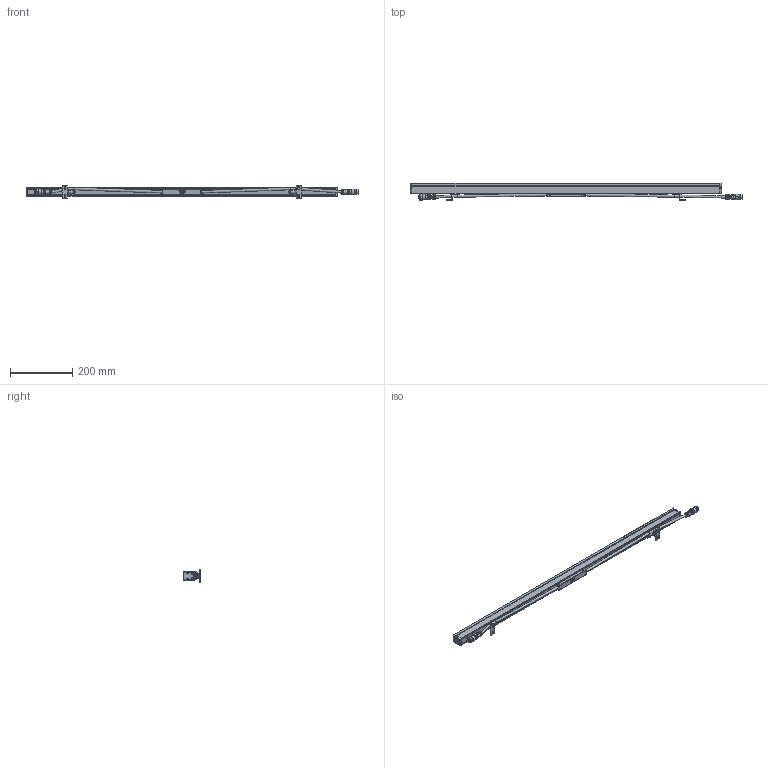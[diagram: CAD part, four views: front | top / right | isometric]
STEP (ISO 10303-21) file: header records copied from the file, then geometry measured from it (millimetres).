
FILE_DESCRIPTION (( 'STEP AP214' ), '1' );
FILE_NAME ('Linear Soft Line - L1000.STEP', '2025-08-26T12:09:16', ( '' ), ( '' ), 'SwSTEP 2.0', 'SolidWorks 2025', '' );
FILE_SCHEMA (( 'AUTOMOTIVE_DESIGN' ));
Length unit declared in the file: millimetre
Products named in the file (7): Linear Soft Line - Body_L1000; M16 5p Female; M16 5p Male; Linear Soft Line - L1000; Linear Soft Line - Bracket topside; Linear Soft Line - Bracket bottom; Cable^Linear Soft Line_L1000
Assembly tree (8 placements, depth 2):
  Linear Soft Line - L1000
    Linear Soft Line - Body_L1000
    Linear Soft Line - Bracket topside  x2
    Linear Soft Line - Bracket bottom  x2
    M16 5p Male
    M16 5p Female
    Cable^Linear Soft Line_L1000
Bounding box: 1065.3 x 55.1 x 42 mm (x, y, z)
Volume: 883578.9 mm3; surface area: 195544 mm2
Topology: 18 solids, 31 shells, 1927 faces, 4412 edges, 2593 vertices
Faces by surface type: plane 773, cylinder 539, cone 262, torus 165, bspline 158, sphere 30
Full cylindrical faces by diameter (mm): 2.6 x4, 7 x2, 9.2 x1, 11.1 x1, 14.25 x1, 14.3 x1, 18 x1
Entity records: 70640 total; most frequent: CARTESIAN_POINT 24473, ORIENTED_EDGE 7902, DIRECTION 7659, EDGE_CURVE 3951, AXIS2_PLACEMENT_3D 3064, VERTEX_POINT 2353, EDGE_LOOP 1918, FACE_OUTER_BOUND 1777
